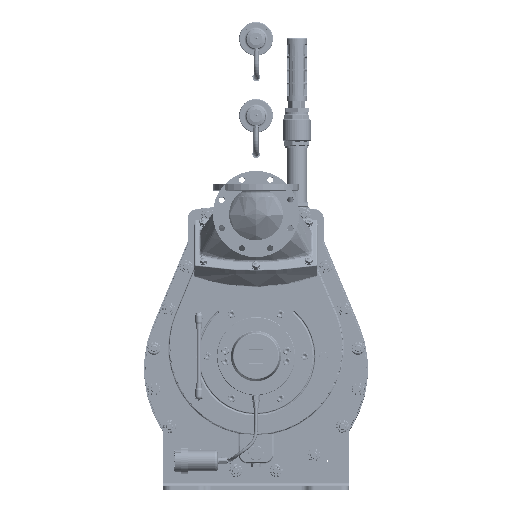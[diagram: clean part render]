
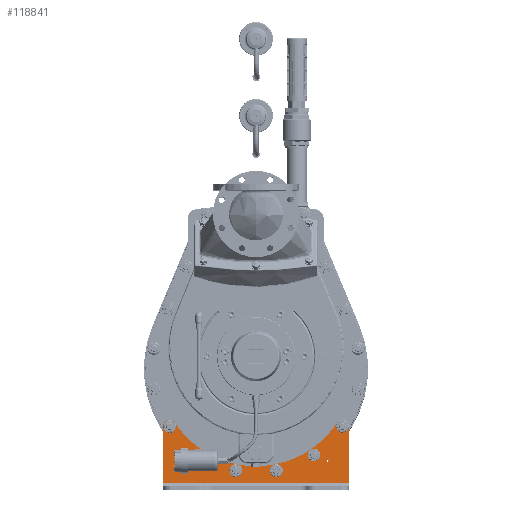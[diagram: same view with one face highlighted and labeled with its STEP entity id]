
A CAD part, top view. The second image highlights one B-rep face of the part: STEP entity #118841.
In plain terms, the highlighted planar face has unit normal (0, 0, 1) as drawn and (1, 0, 0) by its records, which use the part's own axes.
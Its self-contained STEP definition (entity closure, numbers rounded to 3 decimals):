
#13868=FACE_BOUND('',#24293,.T.);
#13869=FACE_BOUND('',#24294,.T.);
#13870=FACE_BOUND('',#24295,.T.);
#13871=FACE_BOUND('',#24296,.T.);
#13872=FACE_BOUND('',#24297,.T.);
#13873=FACE_BOUND('',#24298,.T.);
#13874=FACE_BOUND('',#24299,.T.);
#13875=FACE_BOUND('',#24300,.T.);
#14725=PLANE('',#127490);
#17274=FACE_OUTER_BOUND('',#24292,.T.);
#24292=EDGE_LOOP('',(#81017,#81018,#81019,#81020,#81021,#81022,#81023,#81024,
#81025,#81026));
#24293=EDGE_LOOP('',(#81027));
#24294=EDGE_LOOP('',(#81028));
#24295=EDGE_LOOP('',(#81029));
#24296=EDGE_LOOP('',(#81030));
#24297=EDGE_LOOP('',(#81031));
#24298=EDGE_LOOP('',(#81032));
#24299=EDGE_LOOP('',(#81033));
#24300=EDGE_LOOP('',(#81034));
#32166=LINE('',#164799,#39695);
#32168=LINE('',#164805,#39697);
#32169=LINE('',#164809,#39698);
#32170=LINE('',#164817,#39699);
#32171=LINE('',#164820,#39700);
#39695=VECTOR('',#137419,10.);
#39697=VECTOR('',#137425,10.);
#39698=VECTOR('',#137428,10.);
#39699=VECTOR('',#137435,10.);
#39700=VECTOR('',#137438,10.);
#47226=CIRCLE('',#127491,15.);
#47227=CIRCLE('',#127492,15.);
#47228=CIRCLE('',#127493,231.);
#47229=CIRCLE('',#127494,15.);
#47230=CIRCLE('',#127495,15.);
#47231=CIRCLE('',#127496,2.067);
#47232=CIRCLE('',#127497,2.067);
#47233=CIRCLE('',#127498,9.);
#47234=CIRCLE('',#127499,9.);
#47235=CIRCLE('',#127500,9.);
#47236=CIRCLE('',#127501,9.);
#47237=CIRCLE('',#127502,9.);
#47238=CIRCLE('',#127503,9.);
#51409=VERTEX_POINT('',#164796);
#51410=VERTEX_POINT('',#164798);
#51412=VERTEX_POINT('',#164804);
#51413=VERTEX_POINT('',#164806);
#51414=VERTEX_POINT('',#164808);
#51415=VERTEX_POINT('',#164810);
#51416=VERTEX_POINT('',#164812);
#51417=VERTEX_POINT('',#164814);
#51418=VERTEX_POINT('',#164816);
#51419=VERTEX_POINT('',#164818);
#51420=VERTEX_POINT('',#164821);
#51421=VERTEX_POINT('',#164823);
#51422=VERTEX_POINT('',#164825);
#51423=VERTEX_POINT('',#164827);
#51424=VERTEX_POINT('',#164829);
#51425=VERTEX_POINT('',#164831);
#51426=VERTEX_POINT('',#164833);
#51427=VERTEX_POINT('',#164835);
#63007=EDGE_CURVE('',#51409,#51410,#32166,.T.);
#63010=EDGE_CURVE('',#51412,#51409,#32168,.T.);
#63011=EDGE_CURVE('',#51413,#51412,#47226,.T.);
#63012=EDGE_CURVE('',#51414,#51413,#32169,.T.);
#63013=EDGE_CURVE('',#51415,#51414,#47227,.T.);
#63014=EDGE_CURVE('',#51415,#51416,#47228,.T.);
#63015=EDGE_CURVE('',#51417,#51416,#47229,.T.);
#63016=EDGE_CURVE('',#51418,#51417,#32170,.T.);
#63017=EDGE_CURVE('',#51419,#51418,#47230,.T.);
#63018=EDGE_CURVE('',#51410,#51419,#32171,.T.);
#63019=EDGE_CURVE('',#51420,#51420,#47231,.T.);
#63020=EDGE_CURVE('',#51421,#51421,#47232,.T.);
#63021=EDGE_CURVE('',#51422,#51422,#47233,.T.);
#63022=EDGE_CURVE('',#51423,#51423,#47234,.T.);
#63023=EDGE_CURVE('',#51424,#51424,#47235,.T.);
#63024=EDGE_CURVE('',#51425,#51425,#47236,.T.);
#63025=EDGE_CURVE('',#51426,#51426,#47237,.T.);
#63026=EDGE_CURVE('',#51427,#51427,#47238,.T.);
#81017=ORIENTED_EDGE('',*,*,#63007,.F.);
#81018=ORIENTED_EDGE('',*,*,#63010,.F.);
#81019=ORIENTED_EDGE('',*,*,#63011,.F.);
#81020=ORIENTED_EDGE('',*,*,#63012,.F.);
#81021=ORIENTED_EDGE('',*,*,#63013,.F.);
#81022=ORIENTED_EDGE('',*,*,#63014,.T.);
#81023=ORIENTED_EDGE('',*,*,#63015,.F.);
#81024=ORIENTED_EDGE('',*,*,#63016,.F.);
#81025=ORIENTED_EDGE('',*,*,#63017,.F.);
#81026=ORIENTED_EDGE('',*,*,#63018,.F.);
#81027=ORIENTED_EDGE('',*,*,#63019,.T.);
#81028=ORIENTED_EDGE('',*,*,#63020,.T.);
#81029=ORIENTED_EDGE('',*,*,#63021,.T.);
#81030=ORIENTED_EDGE('',*,*,#63022,.T.);
#81031=ORIENTED_EDGE('',*,*,#63023,.T.);
#81032=ORIENTED_EDGE('',*,*,#63024,.T.);
#81033=ORIENTED_EDGE('',*,*,#63025,.T.);
#81034=ORIENTED_EDGE('',*,*,#63026,.T.);
#118841=ADVANCED_FACE('',(#17274,#13868,#13869,#13870,#13871,#13872,#13873,
#13874,#13875),#14725,.T.);
#127490=AXIS2_PLACEMENT_3D('',#164803,#137423,#137424);
#127491=AXIS2_PLACEMENT_3D('',#164807,#137426,#137427);
#127492=AXIS2_PLACEMENT_3D('',#164811,#137429,#137430);
#127493=AXIS2_PLACEMENT_3D('',#164813,#137431,#137432);
#127494=AXIS2_PLACEMENT_3D('',#164815,#137433,#137434);
#127495=AXIS2_PLACEMENT_3D('',#164819,#137436,#137437);
#127496=AXIS2_PLACEMENT_3D('',#164822,#137439,#137440);
#127497=AXIS2_PLACEMENT_3D('',#164824,#137441,#137442);
#127498=AXIS2_PLACEMENT_3D('',#164826,#137443,#137444);
#127499=AXIS2_PLACEMENT_3D('',#164828,#137445,#137446);
#127500=AXIS2_PLACEMENT_3D('',#164830,#137447,#137448);
#127501=AXIS2_PLACEMENT_3D('',#164832,#137449,#137450);
#127502=AXIS2_PLACEMENT_3D('',#164834,#137451,#137452);
#127503=AXIS2_PLACEMENT_3D('',#164836,#137453,#137454);
#137419=DIRECTION('',(0.,0.,1.));
#137423=DIRECTION('center_axis',(1.,0.,0.));
#137424=DIRECTION('ref_axis',(0.,0.,-1.));
#137425=DIRECTION('',(0.,-1.,0.));
#137426=DIRECTION('center_axis',(-1.,0.,0.));
#137427=DIRECTION('ref_axis',(0.,0.707,-0.707));
#137428=DIRECTION('',(0.,0.,-1.));
#137429=DIRECTION('center_axis',(-1.,0.,0.));
#137430=DIRECTION('ref_axis',(0.,0.881,0.473));
#137431=DIRECTION('center_axis',(-1.,0.,0.));
#137432=DIRECTION('ref_axis',(0.,0.,-1.));
#137433=DIRECTION('center_axis',(-1.,0.,0.));
#137434=DIRECTION('ref_axis',(0.,0.881,-0.473));
#137435=DIRECTION('',(0.,0.,-1.));
#137436=DIRECTION('center_axis',(-1.,0.,0.));
#137437=DIRECTION('ref_axis',(0.,0.707,0.707));
#137438=DIRECTION('',(0.,1.,0.));
#137439=DIRECTION('center_axis',(-1.,0.,0.));
#137440=DIRECTION('ref_axis',(0.,0.,
-1.));
#137441=DIRECTION('center_axis',(-1.,0.,0.));
#137442=DIRECTION('ref_axis',(0.,0.,
-1.));
#137443=DIRECTION('center_axis',(-1.,0.,0.));
#137444=DIRECTION('ref_axis',(0.,0.,-1.));
#137445=DIRECTION('center_axis',(-1.,0.,0.));
#137446=DIRECTION('ref_axis',(0.,0.,-1.));
#137447=DIRECTION('center_axis',(-1.,0.,0.));
#137448=DIRECTION('ref_axis',(0.,0.,-1.));
#137449=DIRECTION('center_axis',(-1.,0.,0.));
#137450=DIRECTION('ref_axis',(0.,0.,-1.));
#137451=DIRECTION('center_axis',(-1.,0.,0.));
#137452=DIRECTION('ref_axis',(0.,0.,-1.));
#137453=DIRECTION('center_axis',(-1.,0.,0.));
#137454=DIRECTION('ref_axis',(0.,0.,-1.));
#164796=CARTESIAN_POINT('',(8.,16.,-220.));
#164798=CARTESIAN_POINT('',(8.,16.,220.));
#164799=CARTESIAN_POINT('',(8.,16.,0.));
#164803=CARTESIAN_POINT('Origin',(8.,58.,0.));
#164804=CARTESIAN_POINT('',(8.,150.,-220.));
#164805=CARTESIAN_POINT('',(8.,0.,-220.));
#164806=CARTESIAN_POINT('',(8.,165.,-205.));
#164807=CARTESIAN_POINT('Origin',(8.,150.,-205.));
#164808=CARTESIAN_POINT('',(8.,165.,-204.988));
#164809=CARTESIAN_POINT('',(8.,165.,-220.));
#164810=CARTESIAN_POINT('',(8.,158.293,-192.489));
#164811=CARTESIAN_POINT('Origin',(8.,150.,-204.988));
#164812=CARTESIAN_POINT('',(8.,158.293,192.489));
#164813=CARTESIAN_POINT('Origin',(8.,286.,0.));
#164814=CARTESIAN_POINT('',(8.,165.,204.988));
#164815=CARTESIAN_POINT('Origin',(8.,150.,204.988));
#164816=CARTESIAN_POINT('',(8.,165.,205.));
#164817=CARTESIAN_POINT('',(8.,165.,-220.));
#164818=CARTESIAN_POINT('',(8.,150.,220.));
#164819=CARTESIAN_POINT('Origin',(8.,150.,205.));
#164820=CARTESIAN_POINT('',(8.,165.,220.));
#164821=CARTESIAN_POINT('',(8.,68.,-167.933));
#164822=CARTESIAN_POINT('Origin',(8.,68.,-170.));
#164823=CARTESIAN_POINT('',(8.,68.,172.067));
#164824=CARTESIAN_POINT('Origin',(8.,68.,170.));
#164825=CARTESIAN_POINT('',(8.,149.33,213.542));
#164826=CARTESIAN_POINT('Origin',(8.,149.33,204.542));
#164827=CARTESIAN_POINT('',(8.,44.727,56.992));
#164828=CARTESIAN_POINT('Origin',(8.,44.727,47.992));
#164829=CARTESIAN_POINT('',(8.,81.458,-127.67));
#164830=CARTESIAN_POINT('Origin',(8.,81.458,-136.67));
#164831=CARTESIAN_POINT('',(8.,149.33,-195.542));
#164832=CARTESIAN_POINT('Origin',(8.,149.33,-204.542));
#164833=CARTESIAN_POINT('',(8.,44.727,-38.992));
#164834=CARTESIAN_POINT('Origin',(8.,44.727,-47.992));
#164835=CARTESIAN_POINT('',(8.,81.458,145.67));
#164836=CARTESIAN_POINT('Origin',(8.,81.458,136.67));
